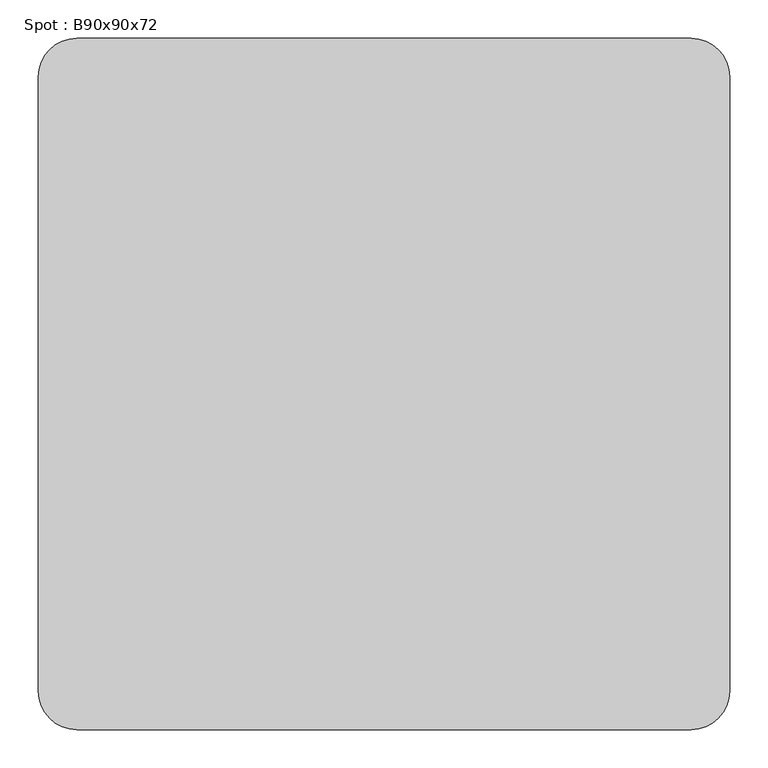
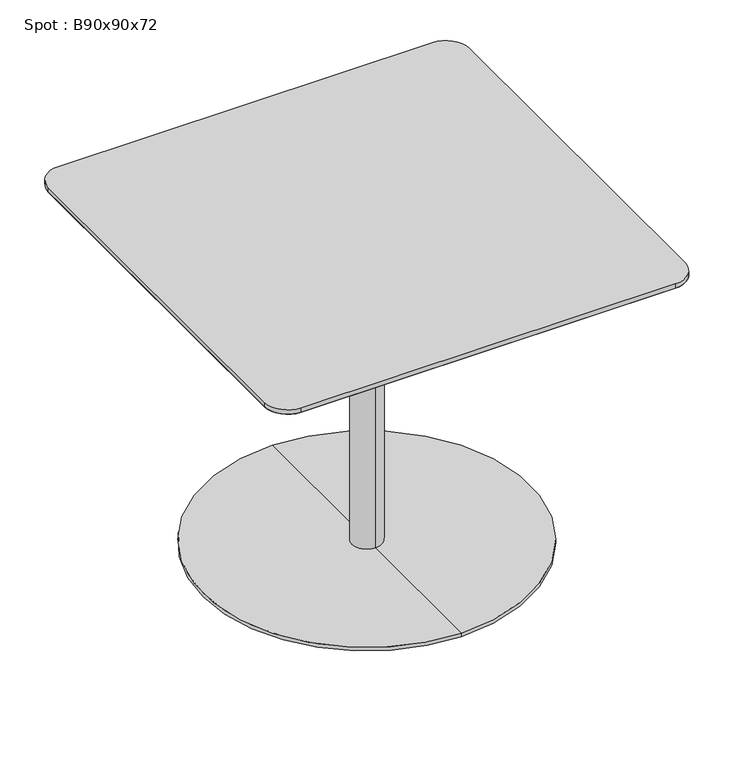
"""IFC4 building model written with IfcOpenShell, lengths in millimetres: furniture geometry, Spot : B90x90x72."""

from ifc_helpers import new_model, si_unit, point, frame, frame_2d, origin, place, context, project, spatial, polyline, circle_curve, trimmed, segment, composite_curve, outline, extrude, source, transform, mapped, element, save
from ifc_brep_helpers import plane_surface, cylinder_surface, revolved_surface, advanced_brep


def spot_b90x90x72_0c4ef9b4(model_context):
    return source(origin(), model_context, "Body", "SolidModel", [
        advanced_brep(
        [(-400.0, -400.0, 698.0), (-400.0, 400.0, 698.0), (400.0, 400.0, 698.0), (400.0, -400.0, 698.0), (-450.0, -400.0, 710.0), (-400.0, -450.0, 710.0), (400.0, -450.0, 710.0), (450.0, -400.0, 710.0), (450.0, 400.0, 710.0), (400.0, 450.0, 710.0), (-400.0, 450.0, 710.0), (-450.0, 400.0, 710.0)],
        [
            (0, 1),
            (1, 2),
            (2, 3),
            (3, 0),
            (4, 5, circle_curve(frame((-400.0, -400.0, 710.0), z_axis=(0.0, 0.0, 1.0), x_axis=(0.0, -1.0, 0.0)), 50.0)),
            (5, 6),
            (6, 7, circle_curve(frame((400.0, -400.0, 710.0), z_axis=(0.0, 0.0, 1.0), x_axis=(1.0, 0.0, 0.0)), 50.0)),
            (7, 8),
            (8, 9, circle_curve(frame((400.0, 400.0, 710.0), z_axis=(0.0, 0.0, 1.0), x_axis=(0.0, 1.0, 0.0)), 50.0)),
            (9, 10),
            (10, 11, circle_curve(frame((-400.0, 400.0, 710.0), z_axis=(0.0, 0.0, 1.0), x_axis=(-1.0, 0.0, 0.0)), 50.0)),
            (11, 4),
            (4, 0),
            (0, 5),
            (3, 6),
            (3, 7),
            (2, 8),
            (2, 9),
            (1, 10),
            (1, 11),
        ],
        [
            plane_surface(frame((0.0, 0.0, 698.0), z_axis=(0.0, 0.0, -1.0), x_axis=(-1.0, 0.0, 0.0))),
            plane_surface(frame((0.0, 0.0, 710.0), z_axis=(0.0, 0.0, 1.0), x_axis=(-1.0, 0.0, 0.0))),
            revolved_surface(polyline([(-400.0, -400.0, 698.0), (-400.0, -450.0, 710.0)]), (-400.0, -400.0, 698.0), (0.0, 0.0, 1.0)),
            plane_surface(frame((0.0, -450.0, 710.0), z_axis=(0.0, -0.23337295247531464, -0.9723873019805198), x_axis=(-1.0, 0.0, 0.0))),
            revolved_surface(polyline([(400.0, -400.0, 698.0), (450.0, -400.0, 710.0)]), (400.0, -400.0, 698.0), (0.0, 0.0, 1.0)),
            plane_surface(frame((450.0, 0.0, 710.0), z_axis=(0.23337295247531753, 0.0, -0.9723873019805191), x_axis=(0.0, -1.0, 0.0))),
            revolved_surface(polyline([(400.0, 400.0, 698.0), (400.0, 450.0, 710.0)]), (400.0, 400.0, 698.0), (0.0, 0.0, 1.0)),
            plane_surface(frame((0.0, 450.0, 710.0), z_axis=(0.0, 0.2333729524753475, -0.9723873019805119), x_axis=(1.0, 0.0, 0.0))),
            revolved_surface(polyline([(-400.0, 400.0, 698.0), (-450.0, 400.0, 710.0)]), (-400.0, 400.0, 698.0), (0.0, 0.0, 1.0)),
            plane_surface(frame((-450.0, 0.0, 710.0), z_axis=(-0.2333729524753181, 0.0, -0.9723873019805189), x_axis=(0.0, 1.0, 0.0))),
        ],
        [
            (0, [[1, 2, 3, 4]]),
            (1, [[5, 6, 7, 8, 9, 10, 11, 12]]),
            (2, [[-5, 13, 14]]),
            (3, [[-6, -14, -4, 15]]),
            (4, [[-7, -15, 16]]),
            (5, [[-8, -16, -3, 17]]),
            (6, [[-9, -17, 18]]),
            (7, [[-10, -18, -2, 19]]),
            (8, [[-11, -19, 20]]),
            (9, [[-12, -20, -1, -13]]),
        ],
    ),
        extrude(outline(composite_curve([segment(trimmed(circle_curve(frame_2d((400.0, 400.0)), 50.0), [point((400.0, 450.0))], [point((450.0, 400.0))], False, "CARTESIAN"), True, "CONTINUOUS"), segment(polyline([(450.0, 400.0), (450.0, -400.0)]), True, "CONTINUOUS"), segment(trimmed(circle_curve(frame_2d((400.0, -400.0)), 50.0), [point((450.0, -400.0))], [point((400.0, -450.0))], False, "CARTESIAN"), True, "CONTINUOUS"), segment(polyline([(400.0, -450.0), (-400.0, -450.0)]), True, "CONTINUOUS"), segment(trimmed(circle_curve(frame_2d((-400.0, -400.0)), 50.0), [point((-400.0, -450.0))], [point((-450.0, -400.0))], False, "CARTESIAN"), True, "CONTINUOUS"), segment(polyline([(-450.0, -400.0), (-450.0, 400.0)]), True, "CONTINUOUS"), segment(trimmed(circle_curve(frame_2d((-400.0, 400.0)), 50.0), [point((-450.0, 400.0))], [point((-400.0, 450.0))], False, "CARTESIAN"), True, "CONTINUOUS"), segment(polyline([(-400.0, 450.0), (400.0, 450.0)]), True, "CONTINUOUS")], self_intersect=False)), frame((0.0, 0.0, 710.0), z_axis=(0.0, 0.0, 1.0), x_axis=(1.0, 0.0, 0.0)), (0.0, 0.0, 1.0), 10.0),
        advanced_brep(
        [(0.0, 32.0, 10.0), (0.0, -32.0, 10.0), (0.0, -32.0, 667.406916), (0.0, 32.0, 667.406916), (0.0, 350.0, 10.0), (0.0, -350.0, 10.0), (0.0, 350.0, 2.0), (0.0, -350.0, 2.0), (0.0, 0.0, 2.0), (0.0, 150.0, 698.0), (0.0, -150.0, 698.0), (0.0, 0.0, 698.0), (0.0, 150.0, 686.7213673), (0.0, -150.0, 686.7213673)],
        [
            (0, 1, circle_curve(frame((0.0, 0.0, 10.0), z_axis=(0.0, 0.0, 1.0), x_axis=(0.0, -1.0, 0.0)), 32.0)),
            (1, 2),
            (2, 3, circle_curve(frame((0.0, 0.0, 667.406916), z_axis=(0.0, 0.0, -1.0), x_axis=(0.0, -1.0, 0.0)), 32.0)),
            (3, 0),
            (1, 0, circle_curve(frame((0.0, 0.0, 10.0), z_axis=(0.0, 0.0, 1.0), x_axis=(0.0, -1.0, 0.0)), 32.0)),
            (3, 2, circle_curve(frame((0.0, 0.0, 667.406916), z_axis=(0.0, 0.0, -1.0), x_axis=(0.0, -1.0, 0.0)), 32.0)),
            (4, 5, circle_curve(frame((0.0, 0.0, 10.0), z_axis=(0.0, 0.0, 1.0), x_axis=(0.0, -1.0, 0.0)), 350.0)),
            (5, 1),
            (0, 4),
            (5, 4, circle_curve(frame((0.0, 0.0, 10.0), z_axis=(0.0, 0.0, 1.0), x_axis=(0.0, -1.0, 0.0)), 350.0)),
            (6, 7, circle_curve(frame((0.0, 0.0, 2.0), z_axis=(0.0, 0.0, 1.0), x_axis=(0.0, -1.0, 0.0)), 350.0)),
            (7, 5),
            (4, 6),
            (7, 6, circle_curve(frame((0.0, 0.0, 2.0), z_axis=(0.0, 0.0, 1.0), x_axis=(0.0, -1.0, 0.0)), 350.0)),
            (8, 7),
            (6, 8),
            (9, 10, circle_curve(frame((0.0, 0.0, 698.0), z_axis=(0.0, 0.0, 1.0), x_axis=(0.0, -1.0, 0.0)), 150.0)),
            (10, 11),
            (11, 9),
            (10, 9, circle_curve(frame((0.0, 0.0, 698.0), z_axis=(0.0, 0.0, 1.0), x_axis=(0.0, -1.0, 0.0)), 150.0)),
            (12, 13, circle_curve(frame((0.0, 0.0, 686.7213673), z_axis=(0.0, 0.0, 1.0), x_axis=(0.0, -1.0, 0.0)), 150.0)),
            (13, 10),
            (9, 12),
            (13, 12, circle_curve(frame((0.0, 0.0, 686.7213673), z_axis=(0.0, 0.0, 1.0), x_axis=(0.0, -1.0, 0.0)), 150.0)),
            (2, 13),
            (12, 3),
        ],
        [
            cylinder_surface(frame((0.0, 0.0, 1060.0), z_axis=(0.0, 0.0, -1.0), x_axis=(0.0, -1.0, 0.0)), 32.0),
            plane_surface(frame((0.0, 0.0, 10.0), z_axis=(0.0, 0.0, 1.0), x_axis=(0.0, -1.0, 0.0))),
            cylinder_surface(frame((0.0, 0.0, 1060.0), z_axis=(0.0, 0.0, -1.0), x_axis=(0.0, -1.0, 0.0)), 350.0),
            plane_surface(frame((0.0, 0.0, 2.0), z_axis=(0.0, 0.0, -1.0), x_axis=(0.0, -1.0, 0.0))),
            plane_surface(frame((0.0, 0.0, 698.0), z_axis=(0.0, 0.0, 1.0), x_axis=(0.0, -1.0, 0.0))),
            cylinder_surface(frame((0.0, 0.0, 1060.0), z_axis=(0.0, 0.0, -1.0), x_axis=(0.0, -1.0, 0.0)), 150.0),
            revolved_surface(polyline([(0.0, -150.0, 686.7213673), (0.0, -32.0, 667.406916)]), (0.0, 0.0, 1060.0), (0.0, 0.0, -1.0)),
        ],
        [
            (0, [[1, 2, 3, 4]]),
            (0, [[5, -4, 6, -2]]),
            (1, [[7, 8, -1, 9]]),
            (1, [[10, -9, -5, -8]]),
            (2, [[11, 12, -7, 13]]),
            (2, [[14, -13, -10, -12]]),
            (3, [[15, -11, 16]]),
            (3, [[-16, -14, -15]]),
            (4, [[17, 18, 19]]),
            (4, [[20, -19, -18]]),
            (5, [[21, 22, -17, 23]]),
            (5, [[24, -23, -20, -22]]),
            (6, [[-3, 25, -21, 26]]),
            (6, [[-6, -26, -24, -25]]),
        ],
    ),
    ])


if __name__ == "__main__":
    model = new_model("IFC4")
    model_context = context("Model", 3, world=origin())
    ifc_project = project(units=[si_unit("LENGTHUNIT", "METRE", prefix="MILLI")], contexts=[model_context])
    site = spatial("IfcSite", under=ifc_project)
    building = spatial("IfcBuilding", under=site)
    placement = place(None, origin())
    spot_b90x90x72_shape = spot_b90x90x72_0c4ef9b4(model_context)
    element("IfcFurniture", 1, ObjectType="Spot : B90x90x72", at=placement, inside=building, context=model_context, shape_type="MappedRepresentation", body=[
        mapped(spot_b90x90x72_shape, transform((0.0, 0.0, 0.0), x_axis=(1.0, 0.0, 0.0), y_axis=(0.0, 1.0, 0.0), z_axis=(0.0, 0.0, 1.0))),
    ])
    save(model, "model.ifc")
